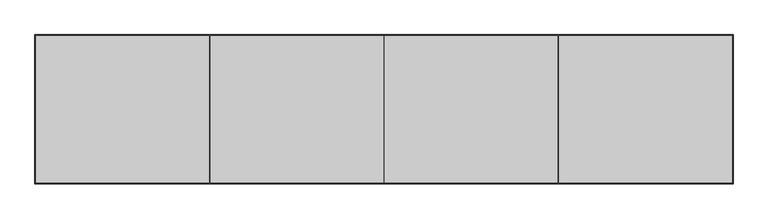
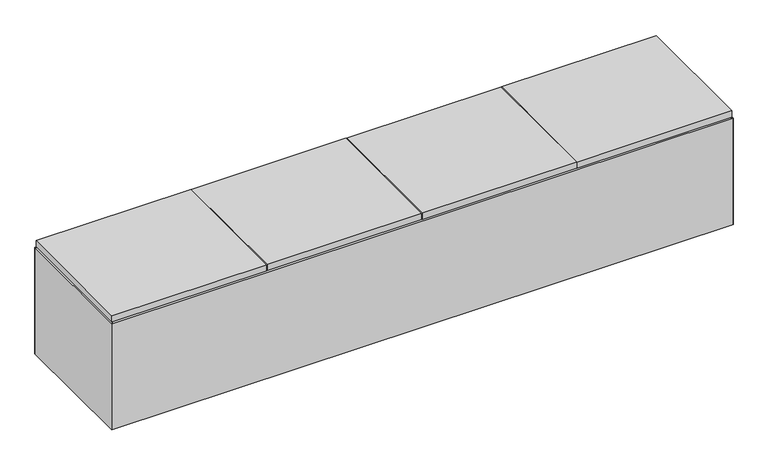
"""IFC4 building model written with IfcOpenShell, lengths in millimetres: proxy geometry, FOUNDATION^PO5_WALL HUNG STORAGE-PARTS SOLID."""

from ifc_helpers import new_model, si_unit, frame, origin, origin_with_axes, place, context, project, spatial, polyline, outline, extrude, source, transform, mapped, element, save


def generic_models_25f49ef9(model_context):
    return source(origin(), model_context, "Body", "SweptSolid", [
        extrude(outline(polyline([(-443.1109375, 2.38125), (-900.509375, 2.38125), (-900.509375, 391.31875), (-443.1109375, 391.31875), (-443.1109375, 2.38125)])), frame((0.0, 0.0, 336.55), z_axis=(0.0, 0.0, 1.0), x_axis=(1.0, 0.0, 0.0)), (0.0, 0.0, 1.0), 19.05),
        extrude(outline(polyline([(-1625.6, 196.85), (-1822.45, 0.0), (-1822.45, 393.7), (-1625.6, 196.85)])), origin_with_axes(), (0.0, 0.0, 1.0), 333.375),
        extrude(outline(polyline([(0.0, 374.65), (-1803.4, 374.65), (-1822.45, 393.7), (19.05, 393.7), (0.0, 374.65)])), origin_with_axes(), (0.0, 0.0, 1.0), 333.375),
        extrude(outline(polyline([(16.66875, 2.38125), (-440.7296875, 2.38125), (-440.7296875, 391.31875), (16.66875, 391.31875), (16.66875, 2.38125)])), frame((0.0, 0.0, 336.55), z_axis=(0.0, 0.0, 1.0), x_axis=(1.0, 0.0, 0.0)), (0.0, 0.0, 1.0), 19.05),
        extrude(outline(polyline([(-1803.4, 19.05), (-1803.4, 374.65), (0.0, 374.65), (0.0, 19.05), (-1803.4, 19.05)])), frame((0.0, 0.0, 19.05), z_axis=(0.0, 0.0, 1.0), x_axis=(1.0, 0.0, 0.0)), (0.0, 0.0, 1.0), 19.05),
        extrude(outline(polyline([(-1362.6703125, 2.38125), (-1820.06875, 2.38125), (-1820.06875, 391.31875), (-1362.6703125, 391.31875), (-1362.6703125, 2.38125)])), frame((0.0, 0.0, 336.55), z_axis=(0.0, 0.0, 1.0), x_axis=(1.0, 0.0, 0.0)), (0.0, 0.0, 1.0), 19.05),
        extrude(outline(polyline([(-902.890625, 2.38125), (-1360.2890625, 2.38125), (-1360.2890625, 391.31875), (-902.890625, 391.31875), (-902.890625, 2.38125)])), frame((0.0, 0.0, 336.55), z_axis=(0.0, 0.0, 1.0), x_axis=(1.0, 0.0, 0.0)), (0.0, 0.0, 1.0), 19.05),
        extrude(outline(polyline([(-177.8, 196.85), (19.05, 393.7), (19.05, 0.0), (-177.8, 196.85)])), origin_with_axes(), (0.0, 0.0, 1.0), 333.375),
        extrude(outline(polyline([(-1803.4, 19.05), (0.0, 19.05), (19.05, 0.0), (-1822.45, 0.0), (-1803.4, 19.05)])), origin_with_axes(), (0.0, 0.0, 1.0), 333.375),
    ])


if __name__ == "__main__":
    model = new_model("IFC4")
    model_context = context("Model", 3, world=origin())
    ifc_project = project(units=[si_unit("LENGTHUNIT", "METRE", prefix="MILLI")], contexts=[model_context])
    site = spatial("IfcSite", under=ifc_project)
    building = spatial("IfcBuilding", under=site)
    placement = place(None, origin())
    generic_models_shape = generic_models_25f49ef9(model_context)
    element("IfcBuildingElementProxy", 1, Name="FOUNDATION^PO5_WALL HUNG STORAGE-PARTS SOLID", ObjectType="FOUNDATION^PO5_WALL HUNG STORAGE-PARTS SOLID", at=placement, inside=building, context=model_context, shape_type="MappedRepresentation", body=[
        mapped(generic_models_shape, transform((0.0, 0.0, 0.0), x_axis=(1.0, 0.0, 0.0), y_axis=(0.0, 1.0, 0.0), z_axis=(0.0, 0.0, 1.0))),
    ])
    save(model, "model.ifc")
